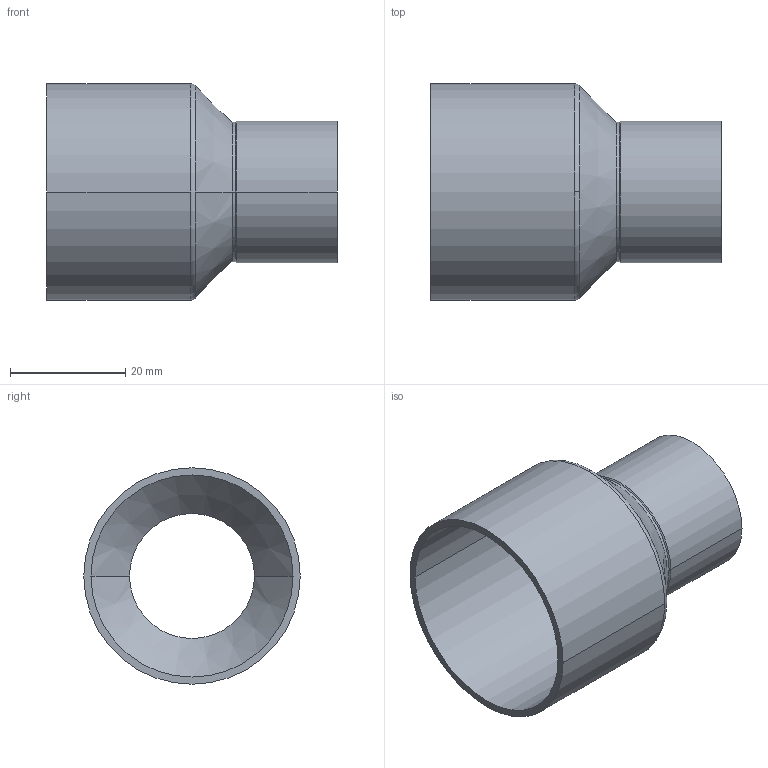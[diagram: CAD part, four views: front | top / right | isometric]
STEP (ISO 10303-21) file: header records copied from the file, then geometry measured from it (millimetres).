
FILE_DESCRIPTION((''),'2;1');
FILE_NAME('G:\Technics\CAD\Bauteile\Serie 15240\152403522.stp','2005-10-21T12:51:12',('boden'),(''),'Autodesk Inventor 8','Autodesk Inventor 8','');
FILE_SCHEMA(('AUTOMOTIVE_DESIGN { 1 0 10303 214 1 1 1 1 }'));
Length unit declared in the file: millimetre
Products named in the file (1): 152403522
Bounding box: 50.5 x 37.65 x 37.65 mm (x, y, z)
Volume: 6420.1 mm3; surface area: 10506.7 mm2
Topology: 1 solids, 1 shells, 24 faces, 52 edges, 30 vertices
Faces by surface type: cylinder 12, cone 8, torus 2, plane 2
Entity records: 683 total; most frequent: DIRECTION 134, CARTESIAN_POINT 107, ORIENTED_EDGE 104, AXIS2_PLACEMENT_3D 57, EDGE_CURVE 52, CIRCLE 32, VERTEX_POINT 30, EDGE_LOOP 26
